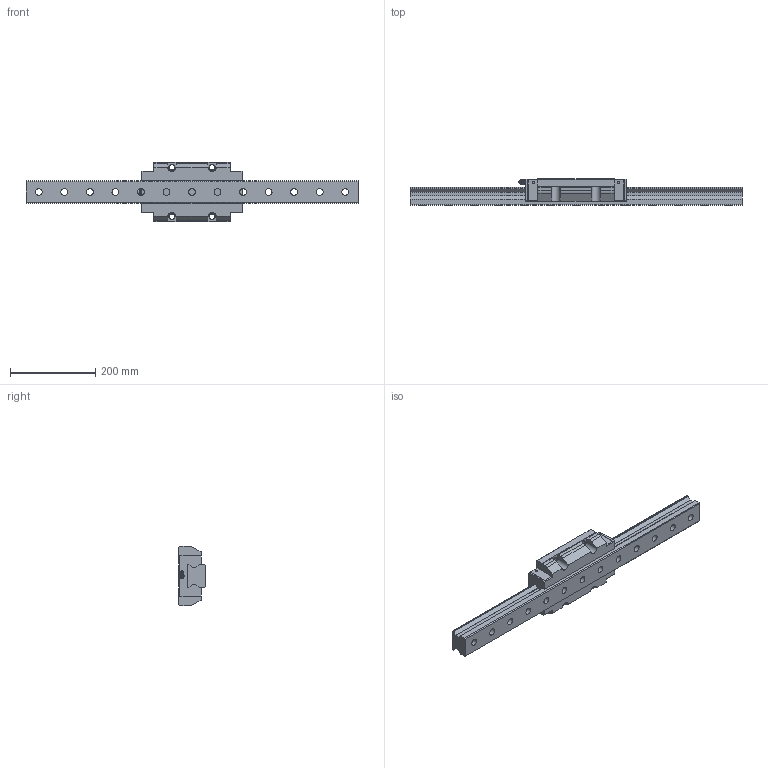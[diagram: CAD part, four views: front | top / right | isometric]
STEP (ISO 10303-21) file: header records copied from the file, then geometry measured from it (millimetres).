
FILE_DESCRIPTION(/* description */ ('STEP AP203'),/* implementation_level */ '2;1');
FILE_NAME(/* name */ 'SRN55LC1SS-780L_G30_0_B-PT18_272-5_0_0_0_1',/* time_stamp */ '2024-05-23T10:43:58+02:00',/* author */ ('License CC BY-ND 4.0'),/* organization */ ('CADENAS'),/* preprocessor_version */ 'ST-DEVELOPER v19.3',/* originating_system */ 'PARTsolutions',/* authorisation */ ' ');
FILE_SCHEMA (('CONFIG_CONTROL_DESIGN'));
Length unit declared in the file: millimetre
Products named in the file (4): SRN55LC1SS-780L_G30_0_B-PT18_272-5_0_0_0_1; SRN55LC78030 Track; SRN55LCSSB-PT1/81 Slide35-65; B-PT1/8-SRN_grease_nipple_joint
Assembly tree (3 placements, depth 2):
  SRN55LC1SS-780L_G30_0_B-PT18_272-5_0_0_0_1
    SRN55LC78030 Track
    SRN55LCSSB-PT1/81 Slide35-65
    B-PT1/8-SRN_grease_nipple_joint
Bounding box: 780 x 63 x 140 mm (x, y, z)
Volume: 2533219.1 mm3; surface area: 310883.3 mm2
Topology: 3 solids, 3 shells, 252 faces, 666 edges, 439 vertices
Faces by surface type: plane 164, cylinder 59, cone 24, torus 3, sphere 2
Full cylindrical faces by diameter (mm): 5.2 x4, 9.6 x1, 12.5 x6, 16 x13, 23 x13
Entity records: 7548 total; most frequent: CARTESIAN_POINT 1391, DIRECTION 1230, ORIENTED_EDGE 1166, EDGE_CURVE 583, VERTEX_POINT 424, AXIS2_PLACEMENT_3D 418, LINE 394, VECTOR 394
